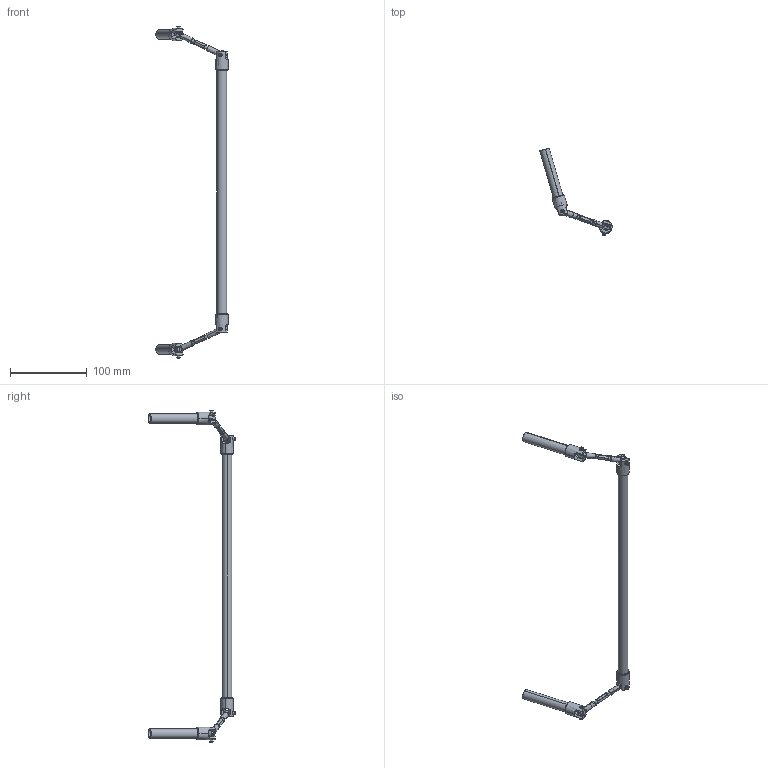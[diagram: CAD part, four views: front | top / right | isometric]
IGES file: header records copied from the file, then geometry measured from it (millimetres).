
Start section: SolidWorks IGES file using analytic representation for surfaces
Global section: file name: C:\Users\ejunkins\Desktop\open-source-rover\Mechanical\Differential Pivot\CAD\Differential Pivot Assembly.IGS; native system: SolidWorks 2016; preprocessor: SolidWorks 2016; author: ejunkins; date: 190408.160719; units: inch
Bounding box: 94.32 x 113.84 x 433.51 mm (x, y, z)
Surface area: 48024.4 mm2 (no closed solid volume)
Topology: 0 solids, 0 shells, 2272 faces, 28024 edges, 28008 vertices
Faces by surface type: bspline 1258, revolution 1014
